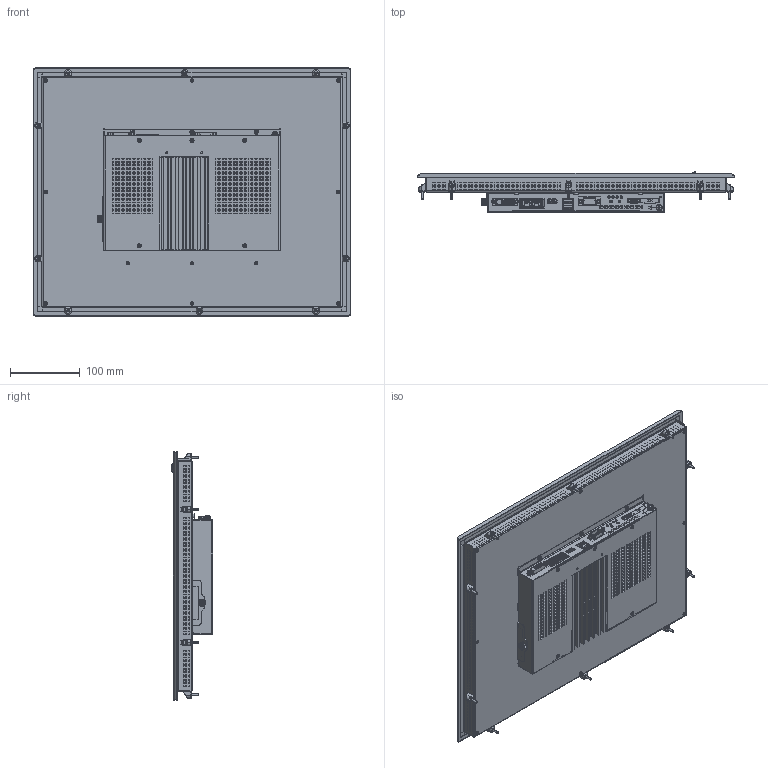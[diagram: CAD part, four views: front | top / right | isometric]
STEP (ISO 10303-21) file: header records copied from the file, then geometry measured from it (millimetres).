
FILE_DESCRIPTION((''),'2;1');
FILE_NAME('C6E22-Panel_170_RES_SL','2017-03-07T',('manpal'),(''),'PRO/ENGINEER BY PARAMETRIC TECHNOLOGY CORPORATION, 2013410','PRO/ENGINEER BY PARAMETRIC TECHNOLOGY CORPORATION, 2013410','');
FILE_SCHEMA(('AUTOMOTIVE_DESIGN { 1 0 10303 214 1 1 1 1 }'));
Products named in the file (2): C6E22-Panel_170_RES_SL_
Assembly tree (1 placements, depth 2):
  C6E22-Panel_170_RES_SL_
    C6E22-Panel_170_RES_SL_
Bounding box: 455 x 58.84 x 355 mm (x, y, z)
Surface area: 886727 mm2 (no closed solid volume)
Topology: 0 solids, 363 shells, 4483 faces, 19624 edges, 15337 vertices
Faces by surface type: plane 3419, cylinder 641, cone 226, bspline 119, torus 49, sphere 27, extrusion 2
Entity records: 227622 total; most frequent: CARTESIAN_POINT 51702, DIRECTION 30285, ORIENTED_EDGE 27807, EDGE_CURVE 19582, VECTOR 15449, LINE 15447, VERTEX_POINT 15337, AXIS2_PLACEMENT_3D 7418
